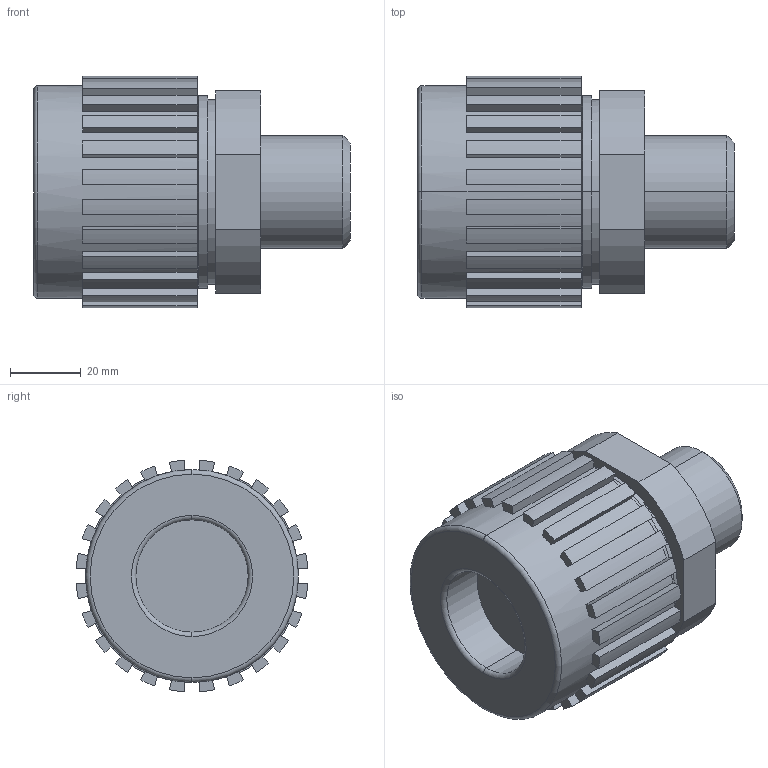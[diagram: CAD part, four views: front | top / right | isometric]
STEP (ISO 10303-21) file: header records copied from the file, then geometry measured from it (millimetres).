
FILE_DESCRIPTION (( 'STEP AP214' ), '1' );
FILE_NAME ('Fitting Pillar S-300 20.STEP', '2012-09-28T21:25:42', ( '' ), ( '' ), 'SwSTEP 2.0', 'SolidWorks 2012', '' );
FILE_SCHEMA (( 'AUTOMOTIVE_DESIGN' ));
Length unit declared in the file: inch
Products named in the file (1): Fitting Pillar S-300 20
Bounding box: 89.33 x 65.25 x 65.25 mm (x, y, z)
Volume: 195128.6 mm3; surface area: 28075.2 mm2
Topology: 1 solids, 1 shells, 133 faces, 373 edges, 246 vertices
Faces by surface type: plane 85, cylinder 39, cone 5, torus 4
Entity records: 4704 total; most frequent: DIRECTION 780, CARTESIAN_POINT 759, ORIENTED_EDGE 746, EDGE_CURVE 373, AXIS2_PLACEMENT_3D 275, VERTEX_POINT 246, LINE 230, VECTOR 230
